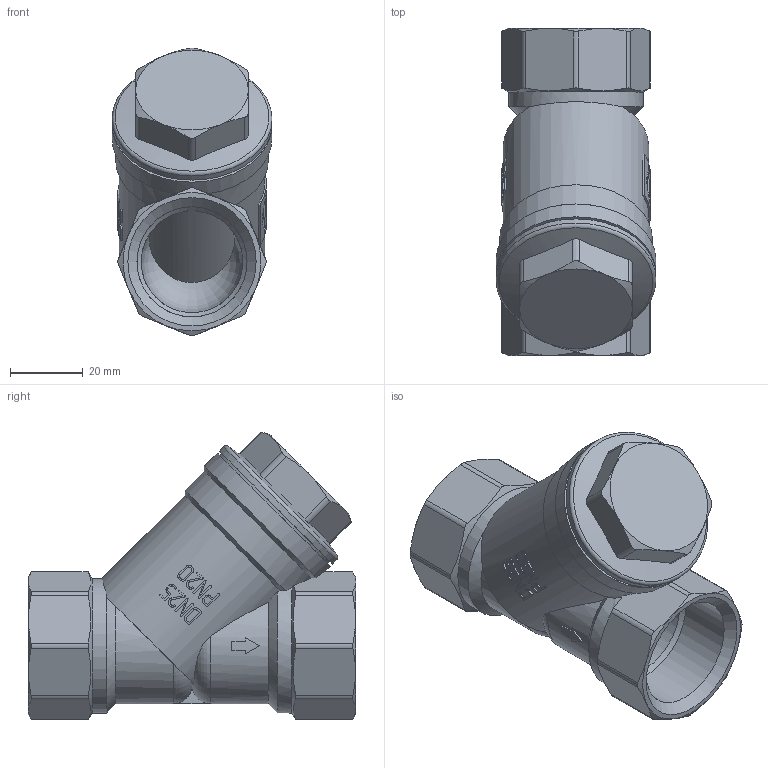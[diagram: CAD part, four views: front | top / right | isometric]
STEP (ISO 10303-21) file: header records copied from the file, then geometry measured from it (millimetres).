
FILE_DESCRIPTION(('STEP AP242'), '1');
FILE_NAME('VT.192.N.06', '', ('UNSPECIFIED'), ('UNSPECIFIED'), 'C3D Converter', 'C3D Toolkit', '');
FILE_SCHEMA(('AP242_MANAGED_MODEL_BASED_3D_ENGINEERING_MIM_LF { 1 0 10303 442 1 1 4 }'));
Length unit declared in the file: millimetre
Products named in the file (1): ВР.061146.019.000 СБ
Bounding box: 44 x 90 x 79.22 mm (x, y, z)
Volume: 101573.4 mm3; surface area: 25376.9 mm2
Topology: 1 solids, 1 shells, 349 faces, 957 edges, 630 vertices
Faces by surface type: extrusion 131, plane 127, cylinder 54, cone 30, torus 7
Full cylindrical faces by diameter (mm): 28 x1, 30.292 x2, 37 x1, 42 x1, 44 x2
Entity records: 18967 total; most frequent: CARTESIAN_POINT 11012, ORIENTED_EDGE 1884, DIRECTION 1164, EDGE_CURVE 942, VERTEX_POINT 629, B_SPLINE_CURVE_WITH_KNOTS 545, VECTOR 474, EDGE_LOOP 381
